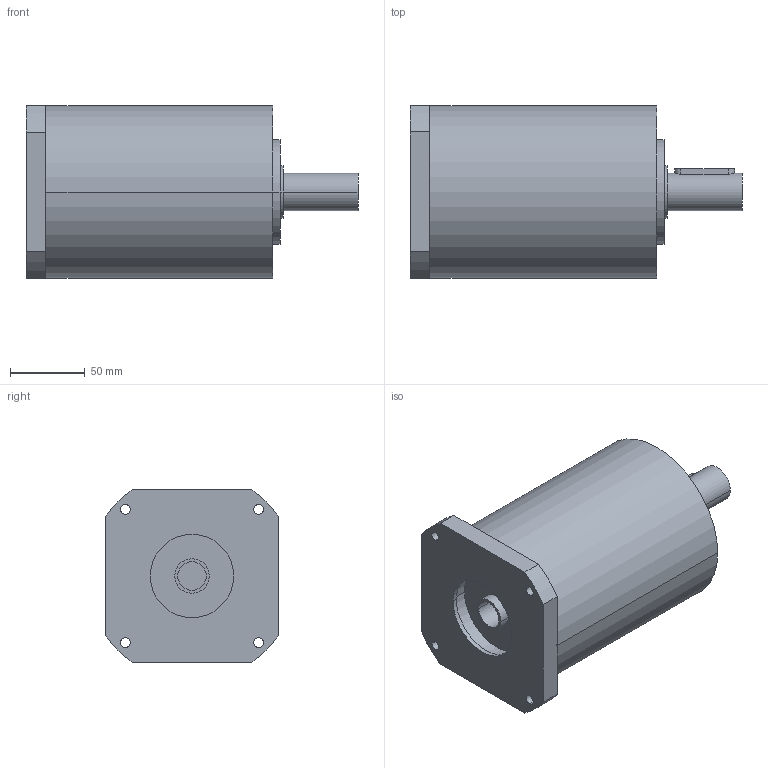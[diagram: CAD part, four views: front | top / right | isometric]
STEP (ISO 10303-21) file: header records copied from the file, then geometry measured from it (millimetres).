
FILE_DESCRIPTION(('CoCreate Modeling STEP Export'),'2;1');
FILE_NAME('GPR125_ig-9-12-16-20-28-35_25_B14_19_P01.stp','2014-08-26T14:10:34',(''),(''),'CoCreate Modeling STEP processor for AP214 (Solid Model)','CoCreate Modeling 16.00C 25-Feb-2009 (C) Parametric Technology GmbH','');
FILE_SCHEMA(('AUTOMOTIVE_DESIGN { 1 0 10303 214 1 1 1 1 }'));
Length unit declared in the file: millimetre
Products named in the file (2): GPR125_ig-9-12-16-20-28-35_25_B14_19_P01
Assembly tree (1 placements, depth 2):
  GPR125_ig-9-12-16-20-28-35_25_B14_19_P01
    GPR125_ig-9-12-16-20-28-35_25_B14_19_P01
Bounding box: 221.4 x 115 x 115 mm (x, y, z)
Volume: 1732695 mm3; surface area: 100926.5 mm2
Topology: 1 solids, 1 shells, 77 faces, 211 edges, 151 vertices
Faces by surface type: cylinder 48, plane 25, cone 4
Entity records: 2148 total; most frequent: ORIENTED_EDGE 418, CARTESIAN_POINT 398, DIRECTION 288, EDGE_CURVE 209, VERTEX_POINT 151, AXIS2_PLACEMENT_3D 109, EDGE_LOOP 102, FACE_OUTER_BOUND 77
